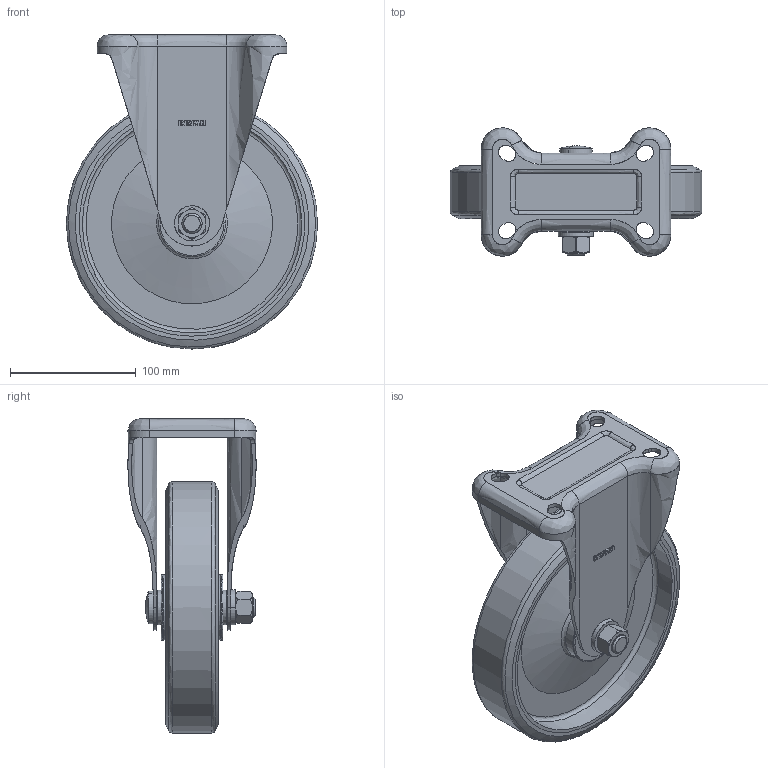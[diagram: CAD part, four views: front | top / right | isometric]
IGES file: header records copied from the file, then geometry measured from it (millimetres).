
Start section: JAMA-IS VERSION  1.0
Bounding box: 200 x 101.99 x 250 mm (x, y, z)
Surface area: 337553.3 mm2 (no closed solid volume)
Topology: 0 solids, 0 shells, 346 faces, 7157 edges, 7544 vertices
Faces by surface type: bspline 346
